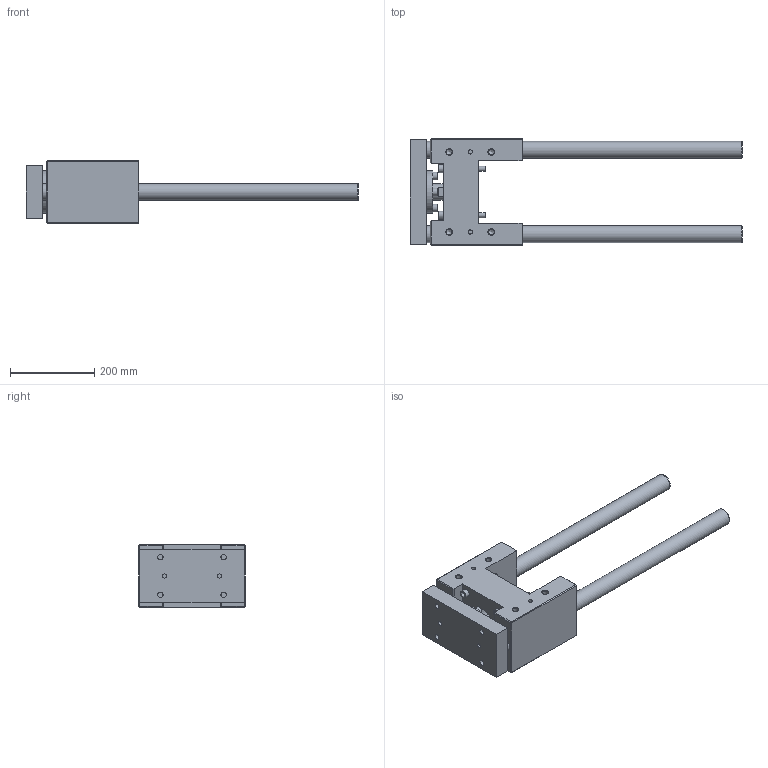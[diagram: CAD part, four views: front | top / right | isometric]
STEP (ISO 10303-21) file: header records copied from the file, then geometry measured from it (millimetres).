
FILE_DESCRIPTION( ( 'STEP AP214' ), '1' );
FILE_NAME( 'U:/Etudes/Top Solid/BIBLIO 3D AVM/TOP/PNEUMATIQUE/GUIDAGES/Type 32 (en H)/S_Lourde/320S8130.step', '2005-05-27T09:32:04', ( ' ' ), ( ' ' ), 'XStep 1.0', ' ', ' ' );
FILE_SCHEMA( ( 'automotive_design' ) );
Length unit declared in the file: metre
Products named in the file (2): 1; 2
Bounding box: 788 x 252 x 148 mm (x, y, z)
Volume: 7590184.5 mm3; surface area: 664058.2 mm2
Topology: 2 solids, 7 shells, 238 faces, 524 edges, 339 vertices
Faces by surface type: plane 149, cylinder 68, cone 21
Full cylindrical faces by diameter (mm): 10 x4, 10.106 x4, 12 x16, 13 x12, 13.835 x8, 18 x8, 20 x4, 24.835 x1, 39 x1, 40 x4, 42 x1, 57 x1, 60 x2, 65 x1, 100 x1
Entity records: 7905 total; most frequent: CARTESIAN_POINT 1198, DIRECTION 996, ORIENTED_EDGE 784, EDGE_CURVE 392, EDGE_LOOP 390, AXIS2_PLACEMENT_3D 372, FACE_OUTER_BOUND 306, VERTEX_POINT 302
